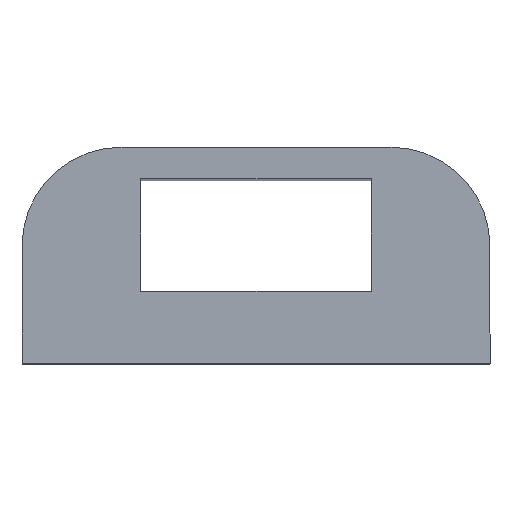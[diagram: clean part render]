
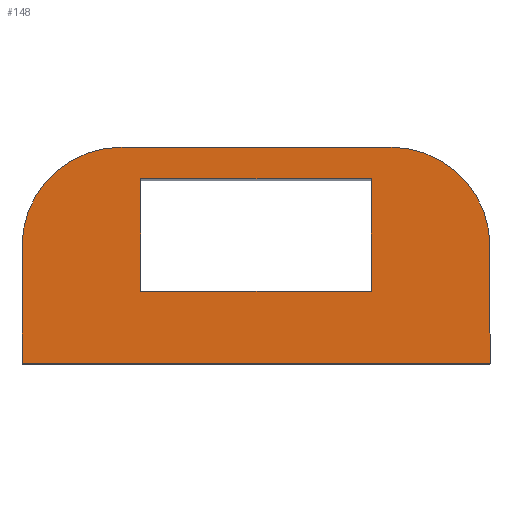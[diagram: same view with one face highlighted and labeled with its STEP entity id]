
A CAD part, top view. The second image highlights one B-rep face of the part: STEP entity #148.
In plain terms, the highlighted planar face has unit normal (0, 0, 1).
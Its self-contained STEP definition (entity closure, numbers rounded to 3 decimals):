
#148=ADVANCED_FACE('',(#353,#355),#357,.F.);
#353=FACE_BOUND('',#354,.T.);
#354=EDGE_LOOP('',(#526,#527,#528,#529,#530,#531));
#355=FACE_BOUND('',#356,.T.);
#356=EDGE_LOOP('',(#532,#533,#534,#535));
#357=PLANE('',#358);
#358=AXIS2_PLACEMENT_3D('',#359,#360,#361);
#359=CARTESIAN_POINT('',(-66.,22.,114.58));
#360=DIRECTION('',(0.,0.,-1.));
#361=DIRECTION('',(1.,0.,0.));
#526=ORIENTED_EDGE('',*,*,#632,.F.);
#527=ORIENTED_EDGE('',*,*,#626,.F.);
#528=ORIENTED_EDGE('',*,*,#600,.F.);
#529=ORIENTED_EDGE('',*,*,#596,.F.);
#530=ORIENTED_EDGE('',*,*,#613,.F.);
#531=ORIENTED_EDGE('',*,*,#629,.F.);
#532=ORIENTED_EDGE('',*,*,#645,.F.);
#533=ORIENTED_EDGE('',*,*,#634,.F.);
#534=ORIENTED_EDGE('',*,*,#638,.F.);
#535=ORIENTED_EDGE('',*,*,#642,.F.);
#596=EDGE_CURVE('',#662,#663,#664,.F.);
#600=EDGE_CURVE('',#663,#670,#671,.F.);
#613=EDGE_CURVE('',#695,#662,#696,.F.);
#626=EDGE_CURVE('',#670,#720,#721,.F.);
#629=EDGE_CURVE('',#725,#695,#726,.F.);
#632=EDGE_CURVE('',#720,#725,#730,.F.);
#634=EDGE_CURVE('',#732,#733,#734,.F.);
#638=EDGE_CURVE('',#740,#732,#741,.F.);
#642=EDGE_CURVE('',#747,#740,#748,.T.);
#645=EDGE_CURVE('',#733,#747,#752,.F.);
#662=VERTEX_POINT('',#772);
#663=VERTEX_POINT('',#773);
#664=LINE('',#774,#775);
#670=VERTEX_POINT('',#788);
#671=LINE('',#789,#790);
#695=VERTEX_POINT('',#843);
#696=LINE('',#844,#845);
#720=VERTEX_POINT('',#898);
#721=CIRCLE('',#899,11.);
#725=VERTEX_POINT('',#911);
#726=CIRCLE('',#912,11.);
#730=LINE('',#924,#925);
#732=VERTEX_POINT('',#930);
#733=VERTEX_POINT('',#931);
#734=LINE('',#932,#933);
#740=VERTEX_POINT('',#946);
#741=LINE('',#947,#948);
#747=VERTEX_POINT('',#961);
#748=LINE('',#962,#963);
#752=LINE('',#972,#973);
#772=CARTESIAN_POINT('',(0.,-8.,114.58));
#773=CARTESIAN_POINT('',(-52.,-8.,114.58));
#774=CARTESIAN_POINT('',(-52.,-8.,114.58));
#775=VECTOR('',#776,1.);
#776=DIRECTION('',(1.,0.,0.));
#788=CARTESIAN_POINT('',(-52.,5.,114.58));
#789=CARTESIAN_POINT('',(-52.,5.,114.58));
#790=VECTOR('',#791,1.);
#791=DIRECTION('',(0.,-1.,0.));
#843=CARTESIAN_POINT('',(0.,5.,114.58));
#844=CARTESIAN_POINT('',(0.,-8.,114.58));
#845=VECTOR('',#846,1.);
#846=DIRECTION('',(0.,1.,0.));
#898=CARTESIAN_POINT('',(-41.,16.,114.58));
#899=AXIS2_PLACEMENT_3D('',#900,#901,#902);
#900=CARTESIAN_POINT('',(-41.,5.,114.58));
#901=DIRECTION('',(0.,-0.,1.));
#902=DIRECTION('',(0.,1.,0.));
#911=CARTESIAN_POINT('',(-11.,16.,114.58));
#912=AXIS2_PLACEMENT_3D('',#913,#914,#915);
#913=CARTESIAN_POINT('',(-11.,5.,114.58));
#914=DIRECTION('',(0.,0.,1.));
#915=DIRECTION('',(1.,0.,0.));
#924=CARTESIAN_POINT('',(-11.,16.,114.58));
#925=VECTOR('',#926,1.);
#926=DIRECTION('',(-1.,0.,0.));
#930=CARTESIAN_POINT('',(-13.2,12.5,114.58));
#931=CARTESIAN_POINT('',(-38.8,12.5,114.58));
#932=CARTESIAN_POINT('',(-38.8,12.5,114.58));
#933=VECTOR('',#934,1.);
#934=DIRECTION('',(1.,0.,0.));
#946=CARTESIAN_POINT('',(-13.2,0.,114.58));
#947=CARTESIAN_POINT('',(-13.2,12.5,114.58));
#948=VECTOR('',#949,1.);
#949=DIRECTION('',(0.,-1.,0.));
#961=CARTESIAN_POINT('',(-38.8,0.,114.58));
#962=CARTESIAN_POINT('',(-38.8,0.,114.58));
#963=VECTOR('',#964,1.);
#964=DIRECTION('',(1.,0.,0.));
#972=CARTESIAN_POINT('',(-38.8,0.,114.58));
#973=VECTOR('',#974,1.);
#974=DIRECTION('',(0.,1.,0.));
